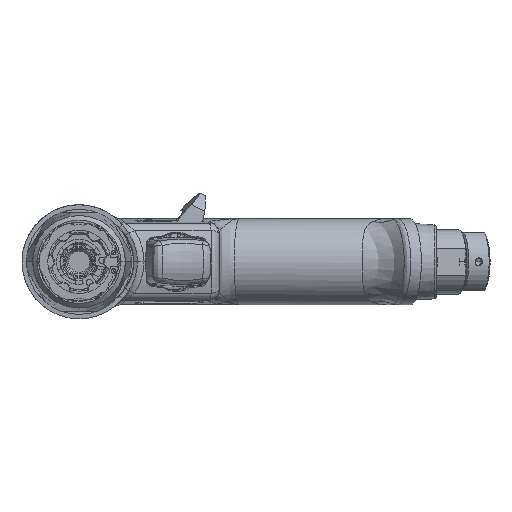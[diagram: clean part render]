
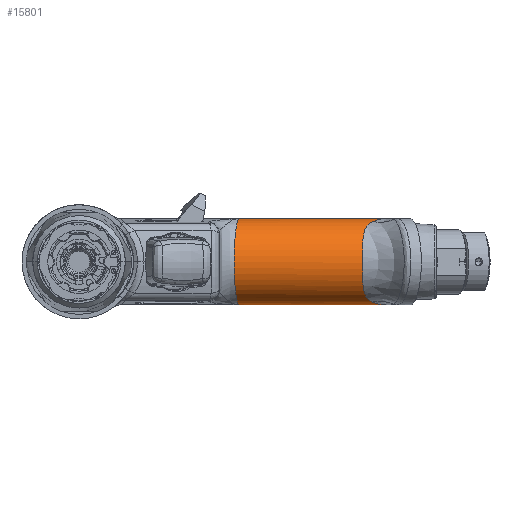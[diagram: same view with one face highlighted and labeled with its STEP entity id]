
A CAD part, left-side view. The second image highlights one B-rep face of the part: STEP entity #15801.
In plain terms, the highlighted cylindrical face has radius 14 mm (diameter 28 mm), a partial arc.
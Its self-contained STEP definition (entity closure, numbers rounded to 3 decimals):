
#2440=DIRECTION('',(-0.259,0.966,0.));
#2441=VECTOR('',#2440,49.819);
#2442=CARTESIAN_POINT('',(10.781,-100.121,
-14.));
#2443=LINE('',#2442,#2441);
#2500=CARTESIAN_POINT('',(10.781,-100.121,14.));
#2702=CARTESIAN_POINT('',(-2.113,-52.,
-14.));
#2744=CARTESIAN_POINT('',(-2.113,-52.,
14.));
#4262=CARTESIAN_POINT('',(4.291,-95.221,
-13.077));
#4263=CARTESIAN_POINT('',(4.782,-95.575,
-13.223));
#4264=CARTESIAN_POINT('',(5.791,-96.317,
-13.484));
#4265=CARTESIAN_POINT('',(7.398,-97.526,
-13.777));
#4266=CARTESIAN_POINT('',(9.069,-98.804,
-13.959));
#4267=CARTESIAN_POINT('',(10.205,-99.678,
-14.));
#4268=CARTESIAN_POINT('',(10.781,-100.121,
-14.));
#4270=CARTESIAN_POINT('',(-2.113,-52.,
-14.));
#4271=CARTESIAN_POINT('',(-2.558,-51.95,
-14.));
#4272=CARTESIAN_POINT('',(-3.445,-51.85,
-13.963));
#4273=CARTESIAN_POINT('',(-4.767,-51.701,
-13.796));
#4274=CARTESIAN_POINT('',(-6.064,-51.555,
-13.521));
#4275=CARTESIAN_POINT('',(-7.329,-51.413,
-13.139));
#4276=CARTESIAN_POINT('',(-8.55,-51.275,
-12.655));
#4277=CARTESIAN_POINT('',(-9.717,-51.144,
-12.074));
#4278=CARTESIAN_POINT('',(-10.82,-51.02,
-11.401));
#4279=CARTESIAN_POINT('',(-11.853,-50.904,
-10.642));
#4280=CARTESIAN_POINT('',(-12.809,-50.796,
-9.803));
#4281=CARTESIAN_POINT('',(-13.68,-50.698,
-8.894));
#4282=CARTESIAN_POINT('',(-14.458,-50.61,
-7.922));
#4283=CARTESIAN_POINT('',(-15.142,-50.533,
-6.894));
#4284=CARTESIAN_POINT('',(-15.727,-50.468,
-5.818));
#4285=CARTESIAN_POINT('',(-16.209,-50.413,
-4.703));
#4286=CARTESIAN_POINT('',(-16.587,-50.371,
-3.556));
#4287=CARTESIAN_POINT('',(-16.858,-50.34,
-2.385));
#4288=CARTESIAN_POINT('',(-17.021,-50.322,
-1.198));
#4289=CARTESIAN_POINT('',(-17.076,-50.316,
-0.002));
#4290=CARTESIAN_POINT('',(-17.022,-50.322,
1.195));
#4291=CARTESIAN_POINT('',(-16.859,-50.34,
2.382));
#4292=CARTESIAN_POINT('',(-16.588,-50.371,
3.553));
#4293=CARTESIAN_POINT('',(-16.21,-50.413,
4.701));
#4294=CARTESIAN_POINT('',(-15.727,-50.468,
5.817));
#4295=CARTESIAN_POINT('',(-15.142,-50.533,
6.893));
#4296=CARTESIAN_POINT('',(-14.459,-50.61,
7.921));
#4297=CARTESIAN_POINT('',(-13.681,-50.698,
8.892));
#4298=CARTESIAN_POINT('',(-12.811,-50.796,
9.802));
#4299=CARTESIAN_POINT('',(-11.855,-50.903,
10.64));
#4300=CARTESIAN_POINT('',(-10.822,-51.02,
11.4));
#4301=CARTESIAN_POINT('',(-9.718,-51.144,
12.073));
#4302=CARTESIAN_POINT('',(-8.551,-51.275,
12.655));
#4303=CARTESIAN_POINT('',(-7.329,-51.413,
13.139));
#4304=CARTESIAN_POINT('',(-6.064,-51.555,
13.521));
#4305=CARTESIAN_POINT('',(-4.767,-51.701,
13.796));
#4306=CARTESIAN_POINT('',(-3.445,-51.85,
13.963));
#4307=CARTESIAN_POINT('',(-2.558,-51.95,
14.));
#4308=CARTESIAN_POINT('',(-2.113,-52.,
14.));
#4310=DIRECTION('',(-0.259,0.966,0.));
#4311=VECTOR('',#4310,49.819);
#4312=CARTESIAN_POINT('',(10.781,-100.121,14.));
#4313=LINE('',#4312,#4311);
#4314=CARTESIAN_POINT('',(10.781,-100.121,14.));
#4315=CARTESIAN_POINT('',(10.013,-99.53,14.));
#4316=CARTESIAN_POINT('',(8.507,-98.371,13.927));
#4317=CARTESIAN_POINT('',(6.301,-96.695,13.606));
#4318=CARTESIAN_POINT('',(4.946,-95.694,13.272));
#4319=CARTESIAN_POINT('',(4.291,-95.221,13.077));
#4321=CARTESIAN_POINT('',(4.291,-95.221,13.077));
#4322=CARTESIAN_POINT('',(3.872,-94.922,12.951));
#4323=CARTESIAN_POINT('',(3.012,-94.362,12.662));
#4324=CARTESIAN_POINT('',(1.639,-93.658,12.058));
#4325=CARTESIAN_POINT('',(0.277,-93.097,
11.284));
#4326=CARTESIAN_POINT('',(-1.003,-92.678,
10.36));
#4327=CARTESIAN_POINT('',(-2.174,-92.377,
9.291));
#4328=CARTESIAN_POINT('',(-3.21,-92.176,
8.094));
#4329=CARTESIAN_POINT('',(-4.094,-92.051,
6.784));
#4330=CARTESIAN_POINT('',(-4.817,-91.985,
5.371));
#4331=CARTESIAN_POINT('',(-5.365,-91.956,
3.882));
#4332=CARTESIAN_POINT('',(-5.731,-91.948,
2.337));
#4333=CARTESIAN_POINT('',(-5.913,-91.948,
0.759));
#4334=CARTESIAN_POINT('',(-5.909,-91.948,
-0.83));
#4335=CARTESIAN_POINT('',(-5.719,-91.949,
-2.404));
#4336=CARTESIAN_POINT('',(-5.346,-91.957,
-3.941));
#4337=CARTESIAN_POINT('',(-4.795,-91.986,
-5.42));
#4338=CARTESIAN_POINT('',(-4.073,-92.054,
-6.82));
#4339=CARTESIAN_POINT('',(-3.19,-92.179,
-8.12));
#4340=CARTESIAN_POINT('',(-2.159,-92.381,
-9.306));
#4341=CARTESIAN_POINT('',(-0.995,-92.681,
-10.366));
#4342=CARTESIAN_POINT('',(0.279,-93.098,
-11.285));
#4343=CARTESIAN_POINT('',(1.638,-93.658,
-12.057));
#4344=CARTESIAN_POINT('',(3.011,-94.362,
-12.662));
#4345=CARTESIAN_POINT('',(3.871,-94.921,
-12.951));
#4346=CARTESIAN_POINT('',(4.291,-95.221,
-13.077));
#4353=CARTESIAN_POINT('',(10.781,-100.121,
-14.));
#6410=VERTEX_POINT('',#2702);
#6422=VERTEX_POINT('',#2744);
#6470=VERTEX_POINT('',#4321);
#6471=VERTEX_POINT('',#4346);
#6473=VERTEX_POINT('',#4353);
#6481=VERTEX_POINT('',#2500);
#15785=CARTESIAN_POINT('',(11.816,-103.985,0.));
#15786=DIRECTION('',(0.259,-0.966,0.));
#15787=DIRECTION('',(0.,0.,1.));
#15788=AXIS2_PLACEMENT_3D('',#15785,#15786,#15787);
#15789=CYLINDRICAL_SURFACE('',#15788,14.);
#15791=ORIENTED_EDGE('',*,*,#15790,.T.);
#15792=ORIENTED_EDGE('',*,*,#10855,.T.);
#15793=ORIENTED_EDGE('',*,*,#11468,.T.);
#15794=ORIENTED_EDGE('',*,*,#10893,.F.);
#15796=ORIENTED_EDGE('',*,*,#15795,.T.);
#15798=ORIENTED_EDGE('',*,*,#15797,.T.);
#15799=EDGE_LOOP('',(#15791,#15792,#15793,#15794,#15796,#15798));
#15800=FACE_OUTER_BOUND('',#15799,.F.);
#15801=ADVANCED_FACE('',(#15800),#15789,.T.);
#4269=B_SPLINE_CURVE_WITH_KNOTS('',3,(#4262,#4263,#4264,#4265,#4266,#4267,
#4268),.UNSPECIFIED.,.F.,.F.,(4,1,1,1,4),(0.,0.25,0.5,0.75,1.),
.UNSPECIFIED.);
#4309=B_SPLINE_CURVE_WITH_KNOTS('',3,(#4270,#4271,#4272,#4273,#4274,#4275,#4276,
#4277,#4278,#4279,#4280,#4281,#4282,#4283,#4284,#4285,#4286,#4287,#4288,#4289,
#4290,#4291,#4292,#4293,#4294,#4295,#4296,#4297,#4298,#4299,#4300,#4301,#4302,
#4303,#4304,#4305,#4306,#4307,#4308),.UNSPECIFIED.,.F.,.F.,(4,1,1,1,1,1,1,1,1,1,
1,1,1,1,1,1,1,1,1,1,1,1,1,1,1,1,1,1,1,1,1,1,1,1,1,1,4),(0.,0.028,
0.056,0.083,0.111,0.139,
0.167,0.194,0.222,0.25,0.278,
0.306,0.333,0.361,0.389,
0.417,0.444,0.472,0.5,0.528,
0.556,0.583,0.611,0.639,
0.667,0.694,0.722,0.75,0.778,
0.806,0.833,0.861,0.889,
0.917,0.944,0.972,1.),.UNSPECIFIED.);
#4320=B_SPLINE_CURVE_WITH_KNOTS('',3,(#4314,#4315,#4316,#4317,#4318,#4319),
.UNSPECIFIED.,.F.,.F.,(4,1,1,4),(0.,0.333,0.667,1.),
.UNSPECIFIED.);
#4347=B_SPLINE_CURVE_WITH_KNOTS('',3,(#4321,#4322,#4323,#4324,#4325,#4326,#4327,
#4328,#4329,#4330,#4331,#4332,#4333,#4334,#4335,#4336,#4337,#4338,#4339,#4340,
#4341,#4342,#4343,#4344,#4345,#4346),.UNSPECIFIED.,.F.,.F.,(4,1,1,1,1,1,1,1,1,1,
1,1,1,1,1,1,1,1,1,1,1,1,1,4),(0.,0.043,0.087,
0.13,0.174,0.217,0.261,
0.304,0.348,0.391,0.435,
0.478,0.522,0.565,0.609,
0.652,0.696,0.739,0.783,
0.826,0.87,0.913,0.957,1.),
.UNSPECIFIED.);
#10855=EDGE_CURVE('',#6473,#6410,#2443,.T.);
#10893=EDGE_CURVE('',#6481,#6422,#4313,.T.);
#11468=EDGE_CURVE('',#6410,#6422,#4309,.T.);
#15790=EDGE_CURVE('',#6471,#6473,#4269,.T.);
#15795=EDGE_CURVE('',#6481,#6470,#4320,.T.);
#15797=EDGE_CURVE('',#6470,#6471,#4347,.T.);
